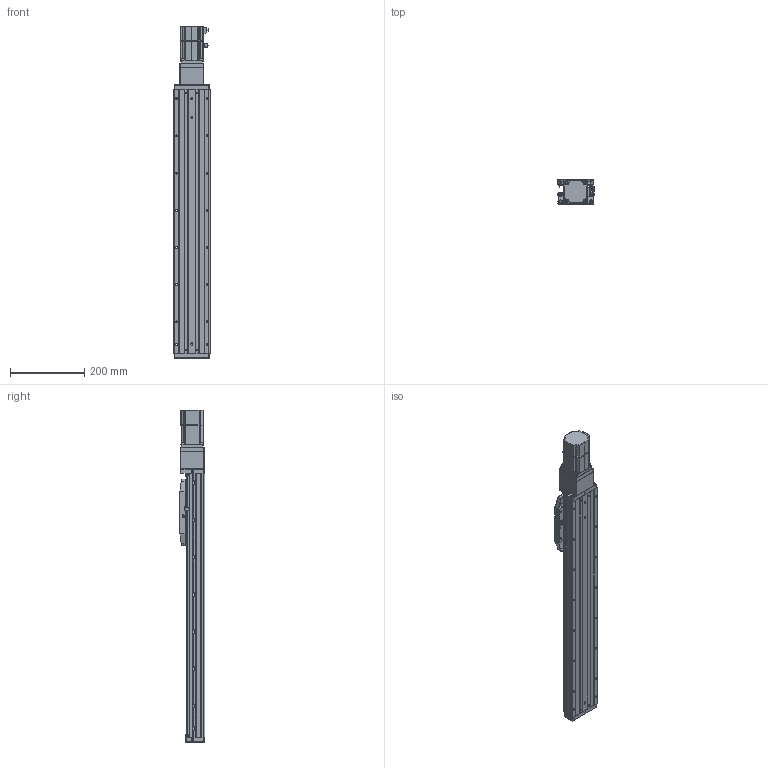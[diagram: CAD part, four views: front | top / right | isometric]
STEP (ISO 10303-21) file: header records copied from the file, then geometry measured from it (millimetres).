
FILE_DESCRIPTION (( 'STEP AP203' ), '1' );
FILE_NAME ('CTHA100-500-BC-M20-C4L.step', '2022-07-06T08:52:54', ( '微软用户' ), ( '微软中国' ), 'SwSTEP 2.0', 'SolidWorks 2020', '' );
FILE_SCHEMA (( 'CONFIG_CONTROL_DESIGN' ));
Length unit declared in the file: millimetre
Products named in the file (20): EE_SX911P_R; _X2_4E0983F1_X0_200W_1; CTHA86-030; CTHA60-017; CTHA86-013; CTHA100-500-BC-M20-C4L; CTHA60-021; CTHA86-027; KTHA100-001_710; GBT77-2000 M3×3; CTHA86-006-1_CTHA86-006-2; KTHA100-004; GBT 70.1-M3℅6; GBT 70.3-M3℅6; KTHA100-005; GBT70.1 M5℅16; CTHA100-002; GB¨uT 70.2-M3¡Á5_M3¡Á6; CTHA60-016; CTHA100-031
Assembly tree (63 placements, depth 2):
  CTHA100-500-BC-M20-C4L
    KTHA100-001_710
    KTHA100-004
    KTHA100-005
    GB¨uT 70.2-M3¡Á5_M3¡Á6  x10
    EE_SX911P_R  x3
    CTHA60-017  x3
    CTHA60-021  x2
    GBT77-2000 M3×3  x6
    GBT 70.1-M3℅6  x6
    GBT70.1 M5℅16  x14
    CTHA60-016  x2
    _X2_4E0983F1_X0_200W_1
    CTHA86-013
    CTHA86-027
    CTHA86-006-1_CTHA86-006-2
    GBT 70.3-M3℅6  x6
    CTHA100-002
    CTHA100-031
    CTHA86-030  x2
Bounding box: 98.82 x 68 x 892.5 mm (x, y, z)
Volume: 3246272.8 mm3; surface area: 572238.3 mm2
Topology: 65 solids, 65 shells, 2639 faces, 6326 edges, 3904 vertices
Faces by surface type: plane 1375, cylinder 685, cone 374, torus 112, bspline 69, sphere 24
Entity records: 45642 total; most frequent: CARTESIAN_POINT 8562, DIRECTION 7151, ORIENTED_EDGE 6924, EDGE_CURVE 3462, AXIS2_PLACEMENT_3D 2429, LINE 2293, VECTOR 2293, VERTEX_POINT 2182
